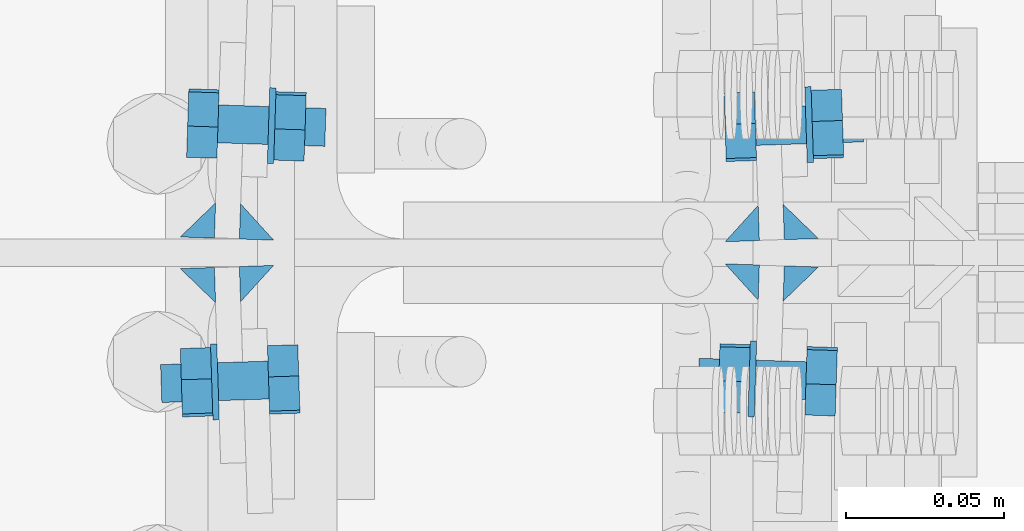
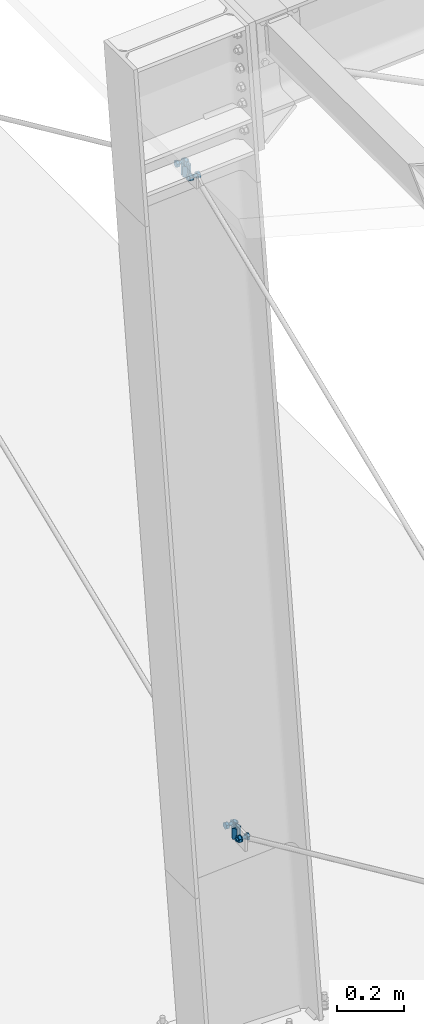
# One storey, part 53 of 72: 16 mechanical fasteners, 8 fasteners.
"""IFC4 building model written with IfcOpenShell, lengths in metres."""

from ifc_helpers import new_model, si_unit, frame, origin_with_axes, place, context, project, spatial, polyline, outline, extrude, type_object, element, save


model = new_model("IFC4")

# Units and contexts
model_context = context("Model", 3, precision=1e-05, world=origin_with_axes())
ifc_project = project(units=[si_unit("LENGTHUNIT", "METRE"), si_unit("AREAUNIT", "SQUARE_METRE"), si_unit("VOLUMEUNIT", "CUBIC_METRE"), si_unit("MASSUNIT", "GRAM", prefix="KILO"), si_unit("TIMEUNIT", "SECOND"), si_unit("PLANEANGLEUNIT", "RADIAN"), si_unit("SOLIDANGLEUNIT", "STERADIAN"), si_unit("THERMODYNAMICTEMPERATUREUNIT", "DEGREE_CELSIUS")], contexts=[model_context])

# Site, building, storey
placement_1 = place(None, origin_with_axes())
site = spatial("IfcSite", under=ifc_project, at=placement_1, Name="Italia", CompositionType="ELEMENT")
building = spatial("IfcBuilding", under=site, at=placement_1, Name="Pensilina", CompositionType="ELEMENT")
storey = spatial("IfcBuildingStorey", under=building, at=placement_1, Name="Storey 0", CompositionType="ELEMENT", Elevation=0.0)

# Mechanical fasteners
mechanical_fastener_type_1 = type_object("IfcMechanicalFastenerType", Name="Collegamento -199_-203", PredefinedType="BOLT")
placement_2 = place(placement_1, origin_with_axes())
mechanical_fastener_1_placement = place(placement_2, origin_with_axes())
element("IfcMechanicalFastener", 1, at=mechanical_fastener_1_placement, inside=storey, type_object=mechanical_fastener_type_1, Name="Collegamento -199_-203", NominalDiameter=0.0119995, context=model_context, shape_type="SweptSolid", body=[
    extrude(outline(polyline([(0.0, 0.0, 0.0), (0.0108356, -0.00515747, 0.0), (0.0207195, 0.00164735, 0.0), (0.0197678, 0.0136096, 0.0), (0.00893307, 0.0187671, 0.0), (-0.000951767, 0.0119622, 0.0), (0.0, 0.0, 0.0)])), frame((0.893182, 15.7896, 0.818425), z_axis=(0.999465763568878, -0.03268326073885, 0.0), x_axis=(0.03268326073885, 0.999465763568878, 0.0)), (0.0, 0.0, 1.0), 0.00959999),
])
mechanical_fastener_type_2 = type_object("IfcMechanicalFastenerType", Name="Collegamento -199_-203", PredefinedType="BOLT")
mechanical_fastener_2_placement = place(placement_2, origin_with_axes())
element("IfcMechanicalFastener", 2, at=mechanical_fastener_2_placement, inside=storey, type_object=mechanical_fastener_type_2, Name="Collegamento -199_-203", NominalDiameter=0.012, context=model_context, shape_type="SweptSolid", body=[
    extrude(outline(polyline([(0.0, 0.0, 0.0), (-0.000204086, -0.00155294, 0.0), (-0.000803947, -0.00300002, 0.0), (-0.00175762, -0.00424266, 0.0), (-0.00300026, -0.00519615, 0.0), (-0.00444794, -0.00579554, 0.0), (-0.00600052, -0.00599998, 0.0), (-0.00755215, -0.00579554, 0.0), (-0.00899982, -0.00519615, 0.0), (-0.0102425, -0.00424266, 0.0), (-0.0111971, -0.00300002, 0.0), (-0.011796, -0.00155294, 0.0), (-0.0120001, 0.0, 0.0), (-0.011796, 0.00155294, 0.0), (-0.0111971, 0.00300002, 0.0), (-0.0102425, 0.00424266, 0.0), (-0.00899982, 0.00519615, 0.0), (-0.00755215, 0.00579554, 0.0), (-0.00600052, 0.00599998, 0.0), (-0.00444794, 0.00579554, 0.0), (-0.00300026, 0.00519615, 0.0), (-0.00175762, 0.00424266, 0.0), (-0.000803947, 0.00300002, 0.0), (-0.000204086, 0.00155294, 0.0), (0.0, 0.0, 0.0)])), frame((0.859719, 15.8066, 0.82523), z_axis=(0.999465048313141, -0.032705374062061, 0.0), x_axis=(0.032705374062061, 0.999465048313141, 0.0)), (0.0, 0.0, 1.0), 0.0340001),
])
mechanical_fastener_type_3 = type_object("IfcMechanicalFastenerType", Name="Collegamento -199_-203", PredefinedType="BOLT")
mechanical_fastener_3_placement = place(placement_2, origin_with_axes())
element("IfcMechanicalFastener", 3, at=mechanical_fastener_3_placement, inside=storey, type_object=mechanical_fastener_type_3, Name="Collegamento -199_-203", NominalDiameter=0.0119995, context=model_context, shape_type="SweptSolid", body=[
    extrude(outline(polyline([(0.0, 0.0, 0.0), (0.0108347, -0.00515747, 0.0), (0.0207195, 0.00164735, 0.0), (0.0197678, 0.0136096, 0.0), (0.00893211, 0.0187671, 0.0), (-0.000951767, 0.0119622, 0.0), (0.0, 0.0, 0.0)])), frame((0.865596, 15.7905, 0.818425), z_axis=(0.999462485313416, -0.03278249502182, 0.0), x_axis=(0.03278249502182, 0.999462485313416, 0.0)), (0.0, 0.0, 1.0), 0.00960002),
])
mechanical_fastener_type_4 = type_object("IfcMechanicalFastenerType", Name="Collegamento -199_-203", PredefinedType="BOLT")
mechanical_fastener_4_placement = place(placement_2, origin_with_axes())
element("IfcMechanicalFastener", 4, at=mechanical_fastener_4_placement, inside=storey, type_object=mechanical_fastener_type_4, Name="Collegamento -199_-203", NominalDiameter=0.024, context=model_context, shape_type="SweptSolid", body=[
    extrude(outline(polyline([(0.0, 0.0, 0.0), (-0.000408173, -0.00310582, 0.0), (-0.00160789, -0.00599998, 0.0), (-0.00351429, -0.00848526, 0.0), (-0.00600052, -0.0103923, 0.0), (-0.00889397, -0.0115911, 0.0), (-0.0120001, -0.012, 0.0), (-0.0151062, -0.0115911, 0.0), (-0.0179996, -0.0103923, 0.0), (-0.0204859, -0.00848526, 0.0), (-0.0223923, -0.00599998, 0.0), (-0.023591, -0.00310582, 0.0), (-0.0240002, 0.0, 0.0), (-0.023591, 0.00310582, 0.0), (-0.0223923, 0.00599998, 0.0), (-0.0204859, 0.00848526, 0.0), (-0.0179996, 0.0103923, 0.0), (-0.0151062, 0.0115911, 0.0), (-0.0120001, 0.012, 0.0), (-0.00889397, 0.0115911, 0.0), (-0.00600052, 0.0103923, 0.0), (-0.00351429, 0.00848526, 0.0), (-0.00160789, 0.00599998, 0.0), (-0.000408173, 0.00310582, 0.0), (0.0, 0.0, 0.0)])), frame((0.875909, 15.8121, 0.82523), z_axis=(0.999458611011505, -0.032901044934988, 0.0), x_axis=(0.032901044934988, 0.999458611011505, 0.0)), (0.0, 0.0, 1.0), 0.00200004),
])

# Fasteners
fastener_type_1 = type_object("IfcFastenerType", Name="Collegamento -199_-203", PredefinedType="WELD")
fastener_1_placement = place(placement_2, origin_with_axes())
element("IfcFastener", 5, at=fastener_1_placement, inside=storey, type_object=fastener_type_1, Name="Collegamento -199_-203", context=model_context, shape_type="SweptSolid", body=[
    extrude(outline(polyline([(0.0, 0.0, 0.0), (-0.0115223, 0.0104669, 0.0), (-0.000354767, 0.0108324, 0.0), (0.0, 0.0, 0.0)])), frame((0.867914, 15.8365, 0.843088), z_axis=(1.486398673e-06, 0.0, -1.0), x_axis=(0.0, 1.0, 0.0)), (0.0, 0.0, 1.0), 0.0401),
])
fastener_type_2 = type_object("IfcFastenerType", Name="Collegamento -199_-203", PredefinedType="WELD")
fastener_2_placement = place(placement_2, origin_with_axes())
element("IfcFastener", 6, at=fastener_2_placement, inside=storey, type_object=fastener_type_2, Name="Collegamento -199_-203", context=model_context, shape_type="SweptSolid", body=[
    extrude(outline(polyline([(0.0, 0.0, 0.0), (-0.0108137, 0.0111977, 0.0), (0.000353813, 0.0108324, 0.0), (0.0, 0.0, 0.0)])), frame((0.897474, 15.8355, 0.802988), z_axis=(0.0, 0.0, 1.0), x_axis=(0.0, 1.0, 0.0)), (0.0, 0.0, 1.0), 0.0401001),
])

# Mechanical fasteners
mechanical_fastener_type_5 = type_object("IfcMechanicalFastenerType", Name="Collegamento -199_-205", PredefinedType="BOLT")
mechanical_fastener_5_placement = place(placement_2, origin_with_axes())
element("IfcMechanicalFastener", 7, at=mechanical_fastener_5_placement, inside=storey, type_object=mechanical_fastener_type_5, Name="Collegamento -199_-205", NominalDiameter=0.0119996, context=model_context, shape_type="SweptSolid", body=[
    extrude(outline(polyline([(0.0, 0.0, 0.0), (0.0108347, -0.00515747, 0.0), (0.0207195, 0.00164735, 0.0), (0.0197678, 0.0136096, 0.0), (0.00893307, 0.0187671, 0.0), (-0.000950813, 0.0119622, 0.0), (0.0, 0.0, 0.0)])), frame((0.87719, 15.8899, 0.818427), z_axis=(-0.999465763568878, -0.03268326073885, 0.0), x_axis=(0.03268326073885, -0.999465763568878, 0.0)), (0.0, 0.0, 1.0), 0.00959999),
])
mechanical_fastener_type_6 = type_object("IfcMechanicalFastenerType", Name="Collegamento -199_-205", PredefinedType="BOLT")
mechanical_fastener_6_placement = place(placement_2, origin_with_axes())
element("IfcMechanicalFastener", 8, at=mechanical_fastener_6_placement, inside=storey, type_object=mechanical_fastener_type_6, Name="Collegamento -199_-205", NominalDiameter=0.012, context=model_context, shape_type="SweptSolid", body=[
    extrude(outline(polyline([(0.0, 0.0, 0.0), (-0.00020504, -0.00155294, 0.0), (-0.000803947, -0.00300002, 0.0), (-0.00175762, -0.00424266, 0.0), (-0.00300026, -0.00519615, 0.0), (-0.00444794, -0.00579554, 0.0), (-0.00600052, -0.00599998, 0.0), (-0.0075531, -0.00579554, 0.0), (-0.00899982, -0.00519615, 0.0), (-0.0102425, -0.00424266, 0.0), (-0.0111971, -0.00300002, 0.0), (-0.011796, -0.00155294, 0.0), (-0.0120001, 0.0, 0.0), (-0.011796, 0.00155294, 0.0), (-0.0111971, 0.00300002, 0.0), (-0.0102425, 0.00424266, 0.0), (-0.00899982, 0.00519615, 0.0), (-0.0075531, 0.00579554, 0.0), (-0.00600052, 0.00599998, 0.0), (-0.00444794, 0.00579554, 0.0), (-0.00300026, 0.00519615, 0.0), (-0.00175762, 0.00424266, 0.0), (-0.000803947, 0.00300002, 0.0), (-0.00020504, 0.00155294, 0.0), (0.0, 0.0, 0.0)])), frame((0.911691, 15.8751, 0.825232), z_axis=(-0.999465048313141, -0.032705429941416, 0.0), x_axis=(0.032705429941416, -0.999465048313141, 0.0)), (0.0, 0.0, 1.0), 0.034),
])
mechanical_fastener_type_7 = type_object("IfcMechanicalFastenerType", Name="Collegamento -199_-205", PredefinedType="BOLT")
mechanical_fastener_7_placement = place(placement_2, origin_with_axes())
element("IfcMechanicalFastener", 9, at=mechanical_fastener_7_placement, inside=storey, type_object=mechanical_fastener_type_7, Name="Collegamento -199_-205", NominalDiameter=0.0119995, context=model_context, shape_type="SweptSolid", body=[
    extrude(outline(polyline([(0.0, 0.0, 0.0), (0.0108356, -0.00515747, 0.0), (0.0207195, 0.00164735, 0.0), (0.0197687, 0.0136096, 0.0), (0.00893307, 0.0187671, 0.0), (-0.00094986, 0.0119622, 0.0), (0.0, 0.0, 0.0)])), frame((0.904775, 15.8908, 0.818427), z_axis=(-0.999465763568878, -0.03268326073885, 0.0), x_axis=(0.03268326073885, -0.999465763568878, 0.0)), (0.0, 0.0, 1.0), 0.00959999),
])
mechanical_fastener_type_8 = type_object("IfcMechanicalFastenerType", Name="Collegamento -199_-205", PredefinedType="BOLT")
mechanical_fastener_8_placement = place(placement_2, origin_with_axes())
element("IfcMechanicalFastener", 10, at=mechanical_fastener_8_placement, inside=storey, type_object=mechanical_fastener_type_8, Name="Collegamento -199_-205", NominalDiameter=0.024, context=model_context, shape_type="SweptSolid", body=[
    extrude(outline(polyline([(0.0, 0.0, 0.0), (-0.000408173, -0.00310582, 0.0), (-0.00160789, -0.00599998, 0.0), (-0.00351429, -0.00848526, 0.0), (-0.00599957, -0.0103923, 0.0), (-0.00889397, -0.0115911, 0.0), (-0.0120001, -0.012, 0.0), (-0.0151052, -0.0115911, 0.0), (-0.0179996, -0.0103923, 0.0), (-0.0204859, -0.00848526, 0.0), (-0.0223923, -0.00599998, 0.0), (-0.023591, -0.00310582, 0.0), (-0.0239992, 0.0, 0.0), (-0.023591, 0.00310582, 0.0), (-0.0223923, 0.00599998, 0.0), (-0.0204859, 0.00848526, 0.0), (-0.0179996, 0.0103923, 0.0), (-0.0151052, 0.0115911, 0.0), (-0.0120001, 0.012, 0.0), (-0.00889397, 0.0115911, 0.0), (-0.00599957, 0.0103923, 0.0), (-0.00351429, 0.00848526, 0.0), (-0.00160789, 0.00599998, 0.0), (-0.000408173, 0.00310582, 0.0), (0.0, 0.0, 0.0)])), frame((0.895898, 15.8686, 0.825232), z_axis=(-0.999458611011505, -0.032902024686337, 0.0), x_axis=(0.032902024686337, -0.999458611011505, 0.0)), (0.0, 0.0, 1.0), 0.00199998),
])

# Fasteners
fastener_type_3 = type_object("IfcFastenerType", Name="Collegamento -199_-205", PredefinedType="WELD")
fastener_3_placement = place(placement_2, origin_with_axes())
element("IfcFastener", 11, at=fastener_3_placement, inside=storey, type_object=fastener_type_3, Name="Collegamento -199_-205", context=model_context, shape_type="SweptSolid", body=[
    extrude(outline(polyline([(0.0, 0.0, 0.0), (0.0108137, -0.0111977, 0.0), (-0.000353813, -0.0108324, 0.0), (0.0, 0.0, 0.0)])), frame((0.897474, 15.8445, 0.843088), z_axis=(0.0, 0.0, -1.0), x_axis=(0.0, 1.0, 0.0)), (0.0, 0.0, 1.0), 0.0400996),
])
fastener_type_4 = type_object("IfcFastenerType", Name="Collegamento -199_-205", PredefinedType="WELD")
fastener_4_placement = place(placement_2, origin_with_axes())
element("IfcFastener", 12, at=fastener_4_placement, inside=storey, type_object=fastener_type_4, Name="Collegamento -199_-205", context=model_context, shape_type="SweptSolid", body=[
    extrude(outline(polyline([(0.0, 0.0, 0.0), (0.0115223, -0.0104669, 0.0), (0.000354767, -0.0108324, 0.0), (0.0, 0.0, 0.0)])), frame((0.867914, 15.8435, 0.802988), z_axis=(0.0, 0.0, 1.0), x_axis=(0.0, 1.0, 0.0)), (0.0, 0.0, 1.0), 0.0400997),
])

# Mechanical fasteners
mechanical_fastener_type_9 = type_object("IfcMechanicalFastenerType", Name="Collegamento -204_-198", PredefinedType="BOLT")
mechanical_fastener_9_placement = place(placement_2, origin_with_axes())
element("IfcMechanicalFastener", 13, at=mechanical_fastener_9_placement, inside=storey, type_object=mechanical_fastener_type_9, Name="Collegamento -204_-198", NominalDiameter=0.0119997, context=model_context, shape_type="SweptSolid", body=[
    extrude(outline(polyline([(0.0, 0.0, 0.0), (0.0108347, 0.00515747, 0.0), (0.0117865, 0.0171196, 0.0), (0.00190163, 0.0239246, 0.0), (-0.00893307, 0.0187671, 0.0), (-0.00988388, 0.00680494, 0.0), (0.0, 0.0, 0.0)])), frame((0.723424, 15.7988, 3.28936), z_axis=(0.999465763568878, 0.03268326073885, 0.0), x_axis=(-0.03268326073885, 0.999465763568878, 0.0)), (0.0, 0.0, 1.0), 0.00959999),
])
mechanical_fastener_type_10 = type_object("IfcMechanicalFastenerType", Name="Collegamento -204_-198", PredefinedType="BOLT")
mechanical_fastener_10_placement = place(placement_2, origin_with_axes())
element("IfcMechanicalFastener", 14, at=mechanical_fastener_10_placement, inside=storey, type_object=mechanical_fastener_type_10, Name="Collegamento -204_-198", NominalDiameter=0.012, context=model_context, shape_type="SweptSolid", body=[
    extrude(outline(polyline([(0.0, 0.0, 0.0), (-0.00020504, -0.00155282, 0.0), (-0.000803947, -0.00300002, 0.0), (-0.00175762, -0.00424266, 0.0), (-0.00300026, -0.00519609, 0.0), (-0.00444794, -0.00579548, 0.0), (-0.00600052, -0.00600004, 0.0), (-0.0075531, -0.00579548, 0.0), (-0.00899982, -0.00519609, 0.0), (-0.0102425, -0.00424266, 0.0), (-0.0111971, -0.00300002, 0.0), (-0.011796, -0.00155282, 0.0), (-0.0120001, 0.0, 0.0), (-0.011796, 0.00155282, 0.0), (-0.0111971, 0.00300002, 0.0), (-0.0102425, 0.00424266, 0.0), (-0.00899982, 0.00519609, 0.0), (-0.0075531, 0.00579548, 0.0), (-0.00600052, 0.00600004, 0.0), (-0.00444794, 0.00579548, 0.0), (-0.00300026, 0.00519609, 0.0), (-0.00175762, 0.00424266, 0.0), (-0.000803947, 0.00300002, 0.0), (-0.00020504, 0.00155282, 0.0), (0.0, 0.0, 0.0)])), frame((0.689215, 15.8046, 3.30132), z_axis=(0.999465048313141, 0.032705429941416, 0.0), x_axis=(-0.032705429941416, 0.999465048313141, 0.0)), (0.0, 0.0, 1.0), 0.034),
])
mechanical_fastener_type_11 = type_object("IfcMechanicalFastenerType", Name="Collegamento -204_-198", PredefinedType="BOLT")
mechanical_fastener_11_placement = place(placement_2, origin_with_axes())
element("IfcMechanicalFastener", 15, at=mechanical_fastener_11_placement, inside=storey, type_object=mechanical_fastener_type_11, Name="Collegamento -204_-198", NominalDiameter=0.0119996, context=model_context, shape_type="SweptSolid", body=[
    extrude(outline(polyline([(0.0, 0.0, 0.0), (0.0108356, 0.00515747, 0.0), (0.0117874, 0.0171196, 0.0), (0.00190258, 0.0239246, 0.0), (-0.00893307, 0.0187671, 0.0), (-0.00988293, 0.00680494, 0.0), (0.0, 0.0, 0.0)])), frame((0.695839, 15.7979, 3.28936), z_axis=(0.999465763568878, 0.03268326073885, 0.0), x_axis=(-0.03268326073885, 0.999465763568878, 0.0)), (0.0, 0.0, 1.0), 0.00959999),
])
mechanical_fastener_type_12 = type_object("IfcMechanicalFastenerType", Name="Collegamento -204_-198", PredefinedType="BOLT")
mechanical_fastener_12_placement = place(placement_2, origin_with_axes())
element("IfcMechanicalFastener", 16, at=mechanical_fastener_12_placement, inside=storey, type_object=mechanical_fastener_type_12, Name="Collegamento -204_-198", NominalDiameter=0.024, context=model_context, shape_type="SweptSolid", body=[
    extrude(outline(polyline([(0.0, 0.0, 0.0), (-0.000408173, -0.00310588, 0.0), (-0.00160789, -0.00600004, 0.0), (-0.00351429, -0.00848532, 0.0), (-0.00599957, -0.0103922, 0.0), (-0.00889397, -0.0115912, 0.0), (-0.0120001, -0.0120001, 0.0), (-0.0151062, -0.0115912, 0.0), (-0.0179996, -0.0103922, 0.0), (-0.0204849, -0.00848532, 0.0), (-0.0223923, -0.00600004, 0.0), (-0.023591, -0.00310588, 0.0), (-0.0239992, 0.0, 0.0), (-0.023591, 0.00310588, 0.0), (-0.0223923, 0.00600004, 0.0), (-0.0204849, 0.00848532, 0.0), (-0.0179996, 0.0103922, 0.0), (-0.0151062, 0.0115912, 0.0), (-0.0120001, 0.0120001, 0.0), (-0.00889397, 0.0115912, 0.0), (-0.00599957, 0.0103922, 0.0), (-0.00351429, 0.00848532, 0.0), (-0.00160789, 0.00600004, 0.0), (-0.000408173, 0.00310588, 0.0), (0.0, 0.0, 0.0)])), frame((0.705014, 15.8111, 3.30132), z_axis=(0.999474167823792, 0.032424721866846, 0.0), x_axis=(-0.032424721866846, 0.999474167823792, 0.0)), (0.0, 0.0, 1.0), 0.00200001),
])

# Fasteners
fastener_type_5 = type_object("IfcFastenerType", Name="Collegamento -204_-198", PredefinedType="WELD")
fastener_5_placement = place(placement_2, origin_with_axes())
element("IfcFastener", 17, at=fastener_5_placement, inside=storey, type_object=fastener_type_5, Name="Collegamento -204_-198", context=model_context, shape_type="SweptSolid", body=[
    extrude(outline(polyline([(0.0, 0.0, 0.0), (-0.0108128, 0.0111977, 0.0), (0.000354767, 0.0108324, 0.0), (0.0, 0.0, 0.0)])), frame((0.695437, 15.835, 3.32257), z_axis=(0.0, 0.0, -1.0), x_axis=(0.0, 1.0, 0.0)), (0.0, 0.0, 1.0), 0.0401006),
])
fastener_type_6 = type_object("IfcFastenerType", Name="Collegamento -204_-198", PredefinedType="WELD")
fastener_6_placement = place(placement_2, origin_with_axes())
element("IfcFastener", 18, at=fastener_6_placement, inside=storey, type_object=fastener_type_6, Name="Collegamento -204_-198", context=model_context, shape_type="SweptSolid", body=[
    extrude(outline(polyline([(0.0, 0.0, 0.0), (-0.0115213, 0.010467, 0.0), (-0.000353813, 0.0108324, 0.0), (0.0, 0.0, 0.0)])), frame((0.724997, 15.836, 3.28246), z_axis=(2.972775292e-06, 0.0, 1.0), x_axis=(0.0, 1.0, 0.0)), (0.0, 0.0, 1.0), 0.0401003),
])

# Mechanical fasteners
mechanical_fastener_type_13 = type_object("IfcMechanicalFastenerType", Name="Collegamento -204_-200", PredefinedType="BOLT")
mechanical_fastener_13_placement = place(placement_2, origin_with_axes())
element("IfcMechanicalFastener", 19, at=mechanical_fastener_13_placement, inside=storey, type_object=mechanical_fastener_type_13, Name="Collegamento -204_-200", NominalDiameter=0.0119997, context=model_context, shape_type="SweptSolid", body=[
    extrude(outline(polyline([(0.0, 0.0, 0.0), (0.0108347, 0.00515747, 0.0), (0.0117855, 0.0171196, 0.0), (0.00190163, 0.0239246, 0.0), (-0.00893307, 0.0187671, 0.0), (-0.00988483, 0.00680494, 0.0), (0.0, 0.0, 0.0)])), frame((0.707433, 15.8817, 3.28936), z_axis=(-0.999465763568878, 0.032683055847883, 0.0), x_axis=(-0.032683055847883, -0.999465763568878, 0.0)), (0.0, 0.0, 1.0), 0.00960005),
])
mechanical_fastener_type_14 = type_object("IfcMechanicalFastenerType", Name="Collegamento -204_-200", PredefinedType="BOLT")
mechanical_fastener_14_placement = place(placement_2, origin_with_axes())
element("IfcMechanicalFastener", 20, at=mechanical_fastener_14_placement, inside=storey, type_object=mechanical_fastener_type_14, Name="Collegamento -204_-200", NominalDiameter=0.012, context=model_context, shape_type="SweptSolid", body=[
    extrude(outline(polyline([(0.0, 0.0, 0.0), (-0.000204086, -0.00155282, 0.0), (-0.000803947, -0.00300002, 0.0), (-0.00175762, -0.00424266, 0.0), (-0.00300026, -0.00519609, 0.0), (-0.00444794, -0.00579548, 0.0), (-0.00600052, -0.00600004, 0.0), (-0.00755215, -0.00579548, 0.0), (-0.00899982, -0.00519609, 0.0), (-0.0102425, -0.00424266, 0.0), (-0.0111971, -0.00300002, 0.0), (-0.011796, -0.00155282, 0.0), (-0.0120001, 0.0, 0.0), (-0.011796, 0.00155282, 0.0), (-0.0111971, 0.00300002, 0.0), (-0.0102425, 0.00424266, 0.0), (-0.00899982, 0.00519609, 0.0), (-0.00755215, 0.00579548, 0.0), (-0.00600052, 0.00600004, 0.0), (-0.00444794, 0.00579548, 0.0), (-0.00300026, 0.00519609, 0.0), (-0.00175762, 0.00424266, 0.0), (-0.000803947, 0.00300002, 0.0), (-0.000204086, 0.00155282, 0.0), (0.0, 0.0, 0.0)])), frame((0.741187, 15.8737, 3.30132), z_axis=(-0.999465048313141, 0.032705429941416, 0.0), x_axis=(-0.032705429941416, -0.999465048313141, 0.0)), (0.0, 0.0, 1.0), 0.034),
])
mechanical_fastener_type_15 = type_object("IfcMechanicalFastenerType", Name="Collegamento -204_-200", PredefinedType="BOLT")
mechanical_fastener_15_placement = place(placement_2, origin_with_axes())
element("IfcMechanicalFastener", 21, at=mechanical_fastener_15_placement, inside=storey, type_object=mechanical_fastener_type_15, Name="Collegamento -204_-200", NominalDiameter=0.0119996, context=model_context, shape_type="SweptSolid", body=[
    extrude(outline(polyline([(0.0, 0.0, 0.0), (0.0108356, 0.00515747, 0.0), (0.0117855, 0.0171196, 0.0), (0.00190258, 0.0239246, 0.0), (-0.00893307, 0.0187671, 0.0), (-0.00988483, 0.00680494, 0.0), (0.0, 0.0, 0.0)])), frame((0.735018, 15.8808, 3.28936), z_axis=(-0.999465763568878, 0.03268326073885, 0.0), x_axis=(-0.03268326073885, -0.999465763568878, 0.0)), (0.0, 0.0, 1.0), 0.00959999),
])
mechanical_fastener_type_16 = type_object("IfcMechanicalFastenerType", Name="Collegamento -204_-200", PredefinedType="BOLT")
mechanical_fastener_16_placement = place(placement_2, origin_with_axes())
element("IfcMechanicalFastener", 22, at=mechanical_fastener_16_placement, inside=storey, type_object=mechanical_fastener_type_16, Name="Collegamento -204_-200", NominalDiameter=0.024, context=model_context, shape_type="SweptSolid", body=[
    extrude(outline(polyline([(0.0, 0.0, 0.0), (-0.000409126, -0.00310588, 0.0), (-0.00160789, -0.00600004, 0.0), (-0.00351429, -0.00848532, 0.0), (-0.00600052, -0.0103922, 0.0), (-0.00889397, -0.0115912, 0.0), (-0.0120001, -0.0120001, 0.0), (-0.0151062, -0.0115912, 0.0), (-0.0179996, -0.0103922, 0.0), (-0.0204859, -0.00848532, 0.0), (-0.0223923, -0.00600004, 0.0), (-0.023591, -0.00310588, 0.0), (-0.0240002, 0.0, 0.0), (-0.023591, 0.00310588, 0.0), (-0.0223923, 0.00600004, 0.0), (-0.0204859, 0.00848532, 0.0), (-0.0179996, 0.0103922, 0.0), (-0.0151062, 0.0115912, 0.0), (-0.0120001, 0.0120001, 0.0), (-0.00889397, 0.0115912, 0.0), (-0.00600052, 0.0103922, 0.0), (-0.00351429, 0.00848532, 0.0), (-0.00160789, 0.00600004, 0.0), (-0.000409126, 0.00310588, 0.0), (0.0, 0.0, 0.0)])), frame((0.725003, 15.8682, 3.30132), z_axis=(-0.999474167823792, 0.032425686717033, 0.0), x_axis=(-0.032425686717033, -0.999474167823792, 0.0)), (0.0, 0.0, 1.0), 0.00199995),
])

# Fasteners
fastener_type_7 = type_object("IfcFastenerType", Name="Collegamento -204_-200", PredefinedType="WELD")
fastener_7_placement = place(placement_2, origin_with_axes())
element("IfcFastener", 23, at=fastener_7_placement, inside=storey, type_object=fastener_type_7, Name="Collegamento -204_-200", context=model_context, shape_type="SweptSolid", body=[
    extrude(outline(polyline([(0.0, 0.0, 0.0), (0.0115213, -0.010467, 0.0), (0.000353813, -0.0108324, 0.0), (0.0, 0.0, 0.0)])), frame((0.724997, 15.844, 3.32257), z_axis=(0.0, 0.0, -1.0), x_axis=(0.0, 1.0, 0.0)), (0.0, 0.0, 1.0), 0.0401015),
])
fastener_type_8 = type_object("IfcFastenerType", Name="Collegamento -204_-200", PredefinedType="WELD")
fastener_8_placement = place(placement_2, origin_with_axes())
element("IfcFastener", 24, at=fastener_8_placement, inside=storey, type_object=fastener_type_8, Name="Collegamento -204_-200", context=model_context, shape_type="SweptSolid", body=[
    extrude(outline(polyline([(0.0, 0.0, 0.0), (0.0108128, -0.0111977, 0.0), (-0.000354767, -0.0108324, 0.0), (0.0, 0.0, 0.0)])), frame((0.695437, 15.845, 3.28247), z_axis=(0.0, 0.0, 1.0), x_axis=(0.0, 1.0, 0.0)), (0.0, 0.0, 1.0), 0.0401006),
])

save(model, "model.ifc")
